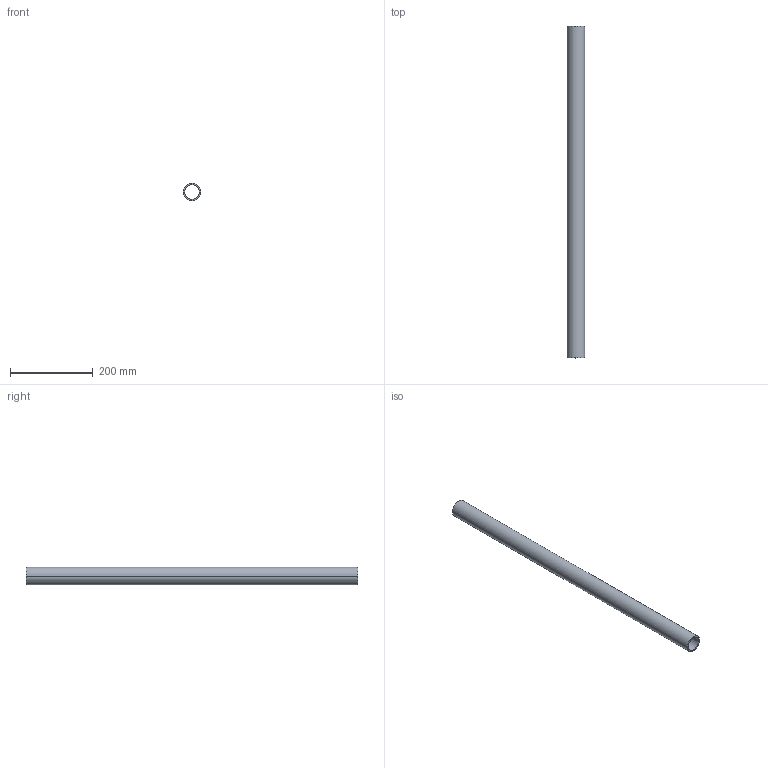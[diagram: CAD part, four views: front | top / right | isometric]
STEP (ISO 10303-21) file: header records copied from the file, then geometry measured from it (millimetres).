
FILE_DESCRIPTION(/* description */ ('VariCAD 2010-3.03 AP-214'),/* implementation_level */ '2;1');
FILE_NAME(/* name */ '0353-22-31',/* time_stamp */ '2011-06-29T10:32:33-06:00',/* author */ (''),/* organization */ (''),/* preprocessor_version */ 'ST-DEVELOPER v12',/* originating_system */ 'VariCAD 2010-3.03; kernel version (20100102)',/* authorisation */ '');
FILE_SCHEMA (('AUTOMOTIVE_DESIGN'));
Length unit declared in the file: millimetre
Products named in the file (1): Part
Bounding box: 42.16 x 800 x 42.16 mm (x, y, z)
Volume: 344861.7 mm3; surface area: 194949.8 mm2
Topology: 1 solids, 1 shells, 10 faces, 28 edges, 16 vertices
Faces by surface type: cylinder 8, plane 2
Entity records: 472 total; most frequent: CARTESIAN_POINT 160, ORIENTED_EDGE 56, DIRECTION 52, EDGE_CURVE 28, AXIS2_PLACEMENT_3D 20, VERTEX_POINT 16, EDGE_LOOP 12, LINE 12
